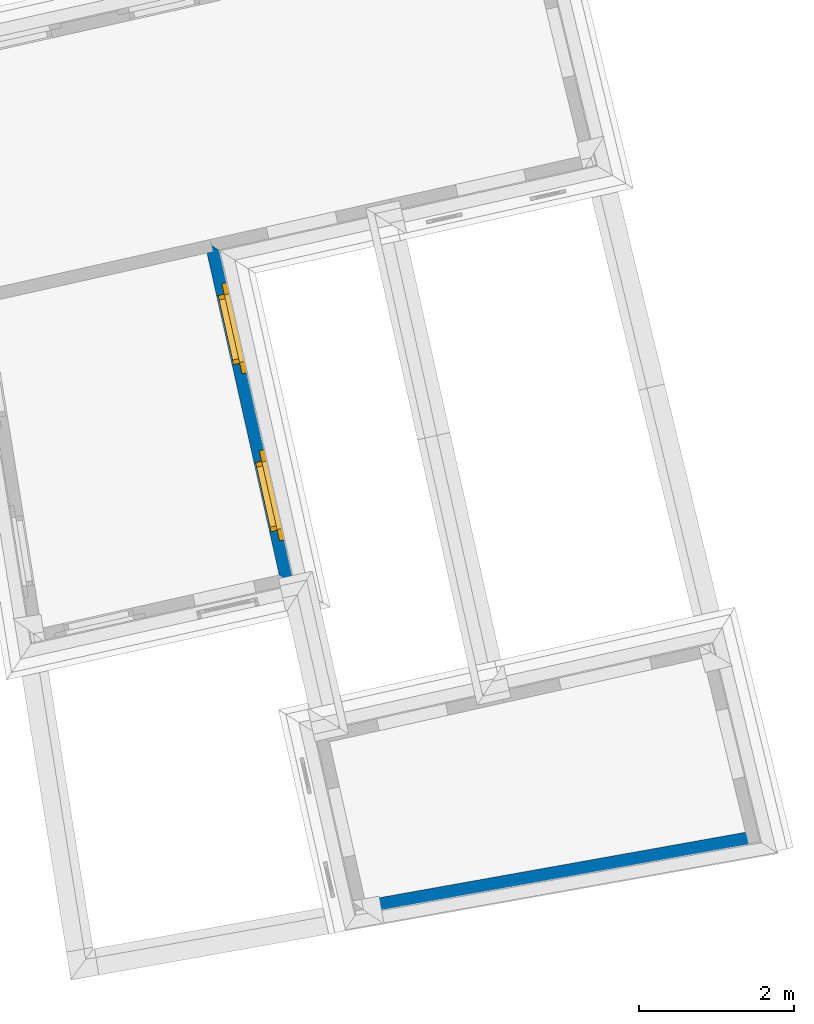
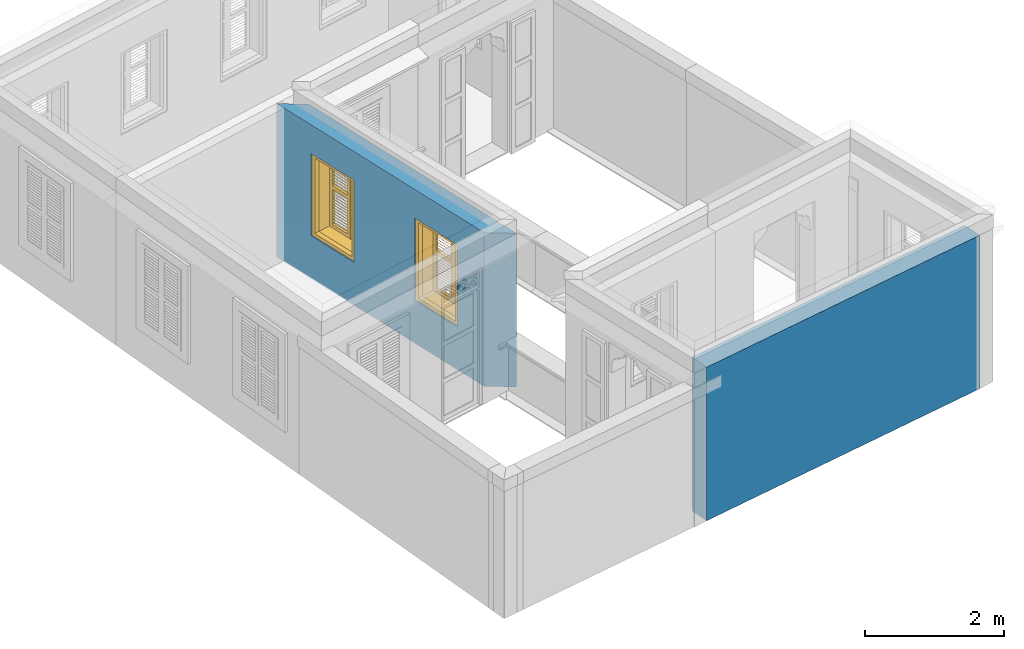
# One storey, part 6 of 15: 2 walls, 2 windows, 2 openings.
"""IFC4 building model written with IfcOpenShell, lengths in metres."""

from ifc_helpers import new_model, si_unit, frame, origin, origin_with_axes, place, context, subcontext, project, spatial, polyline, outline, extrude, faceted_brep, source, transform, mapped, material, layer, layer_set, layer_usage, type_object, type_shapes, element, fill, save


model = new_model("IFC4")

# Units and contexts
model_context = context("Model", 3, world=origin_with_axes())
body_context = subcontext(model_context, "Body", "Model", "MODEL_VIEW")
ifc_project = project(units=[si_unit("PLANEANGLEUNIT", "RADIAN"), si_unit("MASSUNIT", "GRAM", prefix="KILO"), si_unit("FORCEUNIT", "NEWTON", prefix="KILO"), si_unit("LENGTHUNIT", "METRE"), si_unit("AREAUNIT", "SQUARE_METRE"), si_unit("VOLUMEUNIT", "CUBIC_METRE")], contexts=[model_context, model_context])

# Site, building, storey
site_placement = place(None, origin_with_axes())
site = spatial("IfcSite", under=ifc_project, at=site_placement, Name="Site plot-10", CompositionType="ELEMENT")
building_placement = place(None, origin_with_axes())
building = spatial("IfcBuilding", under=site, at=building_placement, Name="Building plot-10", CompositionType="ELEMENT")
storey_placement = place(None, frame((0.0, 0.0, 2.7), z_axis=(0.0, 0.0, 1.0), x_axis=(1.0, 0.0, 0.0)))
storey = spatial("IfcBuildingStorey", under=building, at=storey_placement, Name="plot-10 1", CompositionType="ELEMENT", Elevation=2.7)

# Wall, openings, windows
ifc_material_1 = material(Name="Masonry")
ifc_layer_1 = layer(ifc_material_1, 0.33, ventilated=False)
ifc_layer_set_1 = layer_set([ifc_layer_1], Name="exterior_0.08_0.25")
ifc_layer_usage_1 = layer_usage(ifc_layer_set_1, "AXIS2", "POSITIVE", -0.25)
wall_type_1 = type_object("IfcWallType", Name="exterior_0.08_0.25", PredefinedType="SOLIDWALL", material=ifc_layer_set_1)
wall_1_placement = place(storey_placement, frame((-20.5808779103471, 12.8770561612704, 0.0), z_axis=(0.0, 0.0, 1.0), x_axis=(-0.218925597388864, 0.975741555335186, 0.0)))
wall_1 = element("IfcWall", 1, at=wall_1_placement, inside=storey, type_object=wall_type_1, material=ifc_layer_usage_1, Name="exterior", context=body_context, shape_type="SweptSolid", body=[
    extrude(outline(polyline([(0.0799999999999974, 0.0799999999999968), (-0.249999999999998, -0.249999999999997), (4.15809049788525, -0.249999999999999), (4.48809049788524, 0.0799999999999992), (0.0799999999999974, 0.0799999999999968)])), origin_with_axes(), (0.0, 0.0, 1.0), 2.7),
])
opening_1_placement = place(wall_1_placement, frame((0.64702262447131, 0.0, 0.75)))
opening_1 = element("IfcOpeningElement", 2, at=opening_1_placement, cuts=wall_1, Name="My Opening", ObjectType="Opening", context=body_context, shape_type="SweptSolid", body=[
    extrude(outline(polyline([(0.0, -0.27), (0.909999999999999, -0.270000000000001), (0.910000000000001, 1.1), (1.4432899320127e-15, 1.1), (0.0, -0.27)])), origin_with_axes(), (0.0, 0.0, 1.0), 1.445),
])
opening_2_placement = place(wall_1_placement, frame((2.85106787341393, 0.0, 0.75)))
opening_2 = element("IfcOpeningElement", 3, at=opening_2_placement, cuts=wall_1, Name="My Opening", ObjectType="Opening", context=body_context, shape_type="SweptSolid", body=[
    extrude(outline(polyline([(0.0, -0.270000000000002), (0.91, -0.270000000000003), (0.910000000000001, 1.1), (1.33226762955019e-15, 1.1), (0.0, -0.270000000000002)])), origin_with_axes(), (0.0, 0.0, 1.0), 1.445),
])
window_type = type_object("IfcWindowType", Name="shuttered_shorter", PartitioningType="DOUBLE_PANEL_HORIZONTAL", PredefinedType="NOTDEFINED")
shared_shape = source(origin(), body_context, "Body", "Brep", [
    faceted_brep([(0.393, 0.0, 0.622), (0.074, 0.0, 0.622), (0.074, 0.0, 0.632), (0.393, 0.0, 0.632), (0.074, -0.04, 0.592), (0.393, -0.04, 0.592), (0.393, -0.04, 0.582), (0.074, -0.04, 0.582), (0.517, 0.0, 0.682), (0.836, 0.0, 0.682), (0.836, 0.0, 0.672), (0.517, 0.0, 0.672), (0.517, -0.04, 0.642), (0.836, -0.04, 0.642), (0.836, -0.04, 0.632), (0.517, -0.04, 0.632), (0.517, 0.0, 0.632), (0.836, 0.0, 0.632), (0.836, 0.0, 0.622), (0.517, 0.0, 0.622), (0.517, -0.04, 0.592), (0.836, -0.04, 0.592), (0.836, -0.04, 0.582), (0.517, -0.04, 0.582), (0.517, 0.0, 0.232), (0.836, 0.0, 0.232), (0.836, 0.0, 0.222), (0.517, 0.0, 0.222), (0.517, -0.04, 0.192), (0.836, -0.04, 0.192), (0.836, -0.04, 0.182), (0.517, -0.04, 0.182), (0.517, 0.0, 0.532), (0.836, 0.0, 0.532), (0.836, 0.0, 0.522), (0.517, 0.0, 0.522), (0.517, -0.04, 0.492), (0.836, -0.04, 0.492), (0.836, -0.04, 0.482), (0.517, -0.04, 0.482), (0.517, 0.0, 0.482), (0.836, 0.0, 0.482), (0.836, 0.0, 0.472), (0.517, 0.0, 0.472), (0.517, -0.04, 0.442), (0.836, -0.04, 0.442), (0.836, -0.04, 0.432), (0.517, -0.04, 0.432), (0.517, 0.0, 0.582), (0.836, 0.0, 0.582), (0.836, 0.0, 0.572), (0.517, 0.0, 0.572), (0.517, -0.04, 0.542), (0.836, -0.04, 0.542), (0.836, -0.04, 0.532), (0.517, -0.04, 0.532), (0.517, 0.0, 0.182), (0.836, 0.0, 0.182), (0.836, 0.0, 0.172), (0.517, 0.0, 0.172), (0.517, -0.04, 0.142), (0.836, -0.04, 0.142), (0.836, -0.04, 0.132), (0.517, -0.04, 0.132), (0.517, 0.0, 0.382), (0.836, 0.0, 0.382), (0.836, 0.0, 0.372), (0.517, 0.0, 0.372), (0.517, -0.04, 0.342), (0.836, -0.04, 0.342), (0.836, -0.04, 0.332), (0.517, -0.04, 0.332), (0.517, 0.0, 0.432), (0.836, 0.0, 0.432), (0.836, 0.0, 0.422), (0.517, 0.0, 0.422), (0.517, -0.04, 0.392), (0.836, -0.04, 0.392), (0.836, -0.04, 0.382), (0.517, -0.04, 0.382), (0.517, 0.0, 0.132), (0.836, 0.0, 0.132), (0.836, 0.0, 0.122), (0.517, 0.0, 0.122), (0.517, -0.04, 0.092), (0.836, -0.04, 0.092), (0.836, -0.04, 0.082), (0.517, -0.04, 0.082), (0.517, 0.0, 0.282), (0.836, 0.0, 0.282), (0.836, 0.0, 0.272), (0.517, 0.0, 0.272), (0.517, -0.04, 0.242), (0.836, -0.04, 0.242), (0.836, -0.04, 0.232), (0.517, -0.04, 0.232), (0.517, 0.0, 0.332), (0.836, 0.0, 0.332), (0.836, 0.0, 0.322), (0.517, 0.0, 0.322), (0.517, -0.04, 0.292), (0.836, -0.04, 0.292), (0.836, -0.04, 0.282), (0.517, -0.04, 0.282), (0.517, 0.0, 1.362667), (0.836, 0.0, 1.362667), (0.836, 0.0, 1.352667), (0.517, 0.0, 1.352667), (0.517, -0.04, 1.322667), (0.836, -0.04, 1.322667), (0.836, -0.04, 1.312667), (0.517, -0.04, 1.312667), (0.517, 0.0, 1.312667), (0.836, 0.0, 1.312667), (0.836, 0.0, 1.302667), (0.517, 0.0, 1.302667), (0.517, -0.04, 1.272667), (0.836, -0.04, 1.272667), (0.836, -0.04, 1.262667), (0.517, -0.04, 1.262667), (0.517, 0.0, 0.912667), (0.836, 0.0, 0.912667), (0.836, 0.0, 0.902667), (0.517, 0.0, 0.902667), (0.517, -0.04, 0.872667), (0.836, -0.04, 0.872667), (0.836, -0.04, 0.862667), (0.517, -0.04, 0.862667), (0.517, 0.0, 1.212667), (0.836, 0.0, 1.212667), (0.836, 0.0, 1.202667), (0.517, 0.0, 1.202667), (0.517, -0.04, 1.172667), (0.836, -0.04, 1.172667), (0.836, -0.04, 1.162667), (0.517, -0.04, 1.162667), (0.517, 0.0, 1.162667), (0.836, 0.0, 1.162667), (0.836, 0.0, 1.152667), (0.517, 0.0, 1.152667), (0.517, -0.04, 1.122667), (0.836, -0.04, 1.122667), (0.836, -0.04, 1.112667), (0.517, -0.04, 1.112667), (0.517, 0.0, 1.262667), (0.836, 0.0, 1.262667), (0.836, 0.0, 1.252667), (0.517, 0.0, 1.252667), (0.517, -0.04, 1.222667), (0.836, -0.04, 1.222667), (0.836, -0.04, 1.212667), (0.517, -0.04, 1.212667), (0.517, 0.0, 0.862667), (0.836, 0.0, 0.862667), (0.836, 0.0, 0.852667), (0.517, 0.0, 0.852667), (0.517, -0.04, 0.822667), (0.836, -0.04, 0.822667), (0.836, -0.04, 0.812667), (0.517, -0.04, 0.812667), (0.517, 0.0, 1.062667), (0.836, 0.0, 1.062667), (0.836, 0.0, 1.052667), (0.517, 0.0, 1.052667), (0.517, -0.04, 1.022667), (0.836, -0.04, 1.022667), (0.836, -0.04, 1.012667), (0.517, -0.04, 1.012667), (0.517, 0.0, 1.112667), (0.836, 0.0, 1.112667), (0.836, 0.0, 1.102667), (0.517, 0.0, 1.102667), (0.517, -0.04, 1.072667), (0.836, -0.04, 1.072667), (0.836, -0.04, 1.062667), (0.517, -0.04, 1.062667), (0.517, 0.0, 0.812667), (0.836, 0.0, 0.812667), (0.836, 0.0, 0.802667), (0.517, 0.0, 0.802667), (0.517, -0.04, 0.772667), (0.836, -0.04, 0.772667), (0.836, -0.04, 0.762667), (0.517, -0.04, 0.762667), (0.517, 0.0, 0.962667), (0.836, 0.0, 0.962667), (0.836, 0.0, 0.952667), (0.517, 0.0, 0.952667), (0.517, -0.04, 0.922667), (0.836, -0.04, 0.922667), (0.836, -0.04, 0.912667), (0.517, -0.04, 0.912667), (0.517, 0.0, 1.012667), (0.836, 0.0, 1.012667), (0.836, 0.0, 1.002667), (0.517, 0.0, 1.002667), (0.517, -0.04, 0.972667), (0.836, -0.04, 0.972667), (0.836, -0.04, 0.962667), (0.517, -0.04, 0.962667), (0.074, 0.0, 0.682), (0.393, 0.0, 0.682), (0.393, 0.0, 0.672), (0.074, 0.0, 0.672), (0.074, -0.04, 0.642), (0.393, -0.04, 0.642), (0.393, -0.04, 0.632), (0.074, -0.04, 0.632), (0.074, 0.0, 0.232), (0.393, 0.0, 0.232), (0.393, 0.0, 0.222), (0.074, 0.0, 0.222), (0.074, -0.04, 0.192), (0.393, -0.04, 0.192), (0.393, -0.04, 0.182), (0.074, -0.04, 0.182), (0.074, 0.0, 0.532), (0.393, 0.0, 0.532), (0.393, 0.0, 0.522), (0.074, 0.0, 0.522), (0.074, -0.04, 0.492), (0.393, -0.04, 0.492), (0.393, -0.04, 0.482), (0.074, -0.04, 0.482), (0.074, 0.0, 0.482), (0.393, 0.0, 0.482), (0.393, 0.0, 0.472), (0.074, 0.0, 0.472), (0.074, -0.04, 0.442), (0.393, -0.04, 0.442), (0.393, -0.04, 0.432), (0.074, -0.04, 0.432), (0.074, 0.0, 0.582), (0.393, 0.0, 0.582), (0.393, 0.0, 0.572), (0.074, 0.0, 0.572), (0.074, -0.04, 0.542), (0.393, -0.04, 0.542), (0.393, -0.04, 0.532), (0.074, -0.04, 0.532), (0.074, 0.0, 0.182), (0.393, 0.0, 0.182), (0.393, 0.0, 0.172), (0.074, 0.0, 0.172), (0.074, -0.04, 0.142), (0.393, -0.04, 0.142), (0.393, -0.04, 0.132), (0.074, -0.04, 0.132), (0.074, 0.0, 0.382), (0.393, 0.0, 0.382), (0.393, 0.0, 0.372), (0.074, 0.0, 0.372), (0.074, -0.04, 0.342), (0.393, -0.04, 0.342), (0.393, -0.04, 0.332), (0.074, -0.04, 0.332), (0.074, 0.0, 0.432), (0.393, 0.0, 0.432), (0.393, 0.0, 0.422), (0.074, 0.0, 0.422), (0.074, -0.04, 0.392), (0.393, -0.04, 0.392), (0.393, -0.04, 0.382), (0.074, -0.04, 0.382), (0.074, 0.0, 0.132), (0.393, 0.0, 0.132), (0.393, 0.0, 0.122), (0.074, 0.0, 0.122), (0.074, -0.04, 0.092), (0.393, -0.04, 0.092), (0.393, -0.04, 0.082), (0.074, -0.04, 0.082), (0.074, 0.0, 0.282), (0.393, 0.0, 0.282), (0.393, 0.0, 0.272), (0.074, 0.0, 0.272), (0.074, -0.04, 0.242), (0.393, -0.04, 0.242), (0.393, -0.04, 0.232), (0.074, -0.04, 0.232), (0.074, 0.0, 0.332), (0.393, 0.0, 0.332), (0.393, 0.0, 0.322), (0.074, 0.0, 0.322), (0.074, -0.04, 0.292), (0.393, -0.04, 0.292), (0.393, -0.04, 0.282), (0.074, -0.04, 0.282), (0.074, 0.0, 1.362667), (0.393, 0.0, 1.362667), (0.393, 0.0, 1.352667), (0.074, 0.0, 1.352667), (0.074, -0.04, 1.322667), (0.393, -0.04, 1.322667), (0.393, -0.04, 1.312667), (0.074, -0.04, 1.312667), (0.074, 0.0, 1.312667), (0.393, 0.0, 1.312667), (0.393, 0.0, 1.302667), (0.074, 0.0, 1.302667), (0.074, -0.04, 1.272667), (0.393, -0.04, 1.272667), (0.393, -0.04, 1.262667), (0.074, -0.04, 1.262667), (0.074, 0.0, 0.912667), (0.393, 0.0, 0.912667), (0.393, 0.0, 0.902667), (0.074, 0.0, 0.902667), (0.074, -0.04, 0.872667), (0.393, -0.04, 0.872667), (0.393, -0.04, 0.862667), (0.074, -0.04, 0.862667), (0.074, 0.0, 1.212667), (0.393, 0.0, 1.212667), (0.393, 0.0, 1.202667), (0.074, 0.0, 1.202667), (0.074, -0.04, 1.172667), (0.393, -0.04, 1.172667), (0.393, -0.04, 1.162667), (0.074, -0.04, 1.162667), (0.074, 0.0, 1.162667), (0.393, 0.0, 1.162667), (0.393, 0.0, 1.152667), (0.074, 0.0, 1.152667), (0.074, -0.04, 1.122667), (0.393, -0.04, 1.122667), (0.393, -0.04, 1.112667), (0.074, -0.04, 1.112667), (0.074, 0.0, 1.262667), (0.393, 0.0, 1.262667), (0.393, 0.0, 1.252667), (0.074, 0.0, 1.252667), (0.074, -0.04, 1.222667), (0.393, -0.04, 1.222667), (0.393, -0.04, 1.212667), (0.074, -0.04, 1.212667), (0.074, 0.0, 0.862667), (0.393, 0.0, 0.862667), (0.393, 0.0, 0.852667), (0.074, 0.0, 0.852667), (0.074, -0.04, 0.822667), (0.393, -0.04, 0.822667), (0.393, -0.04, 0.812667), (0.074, -0.04, 0.812667), (0.074, 0.0, 1.062667), (0.393, 0.0, 1.062667), (0.393, 0.0, 1.052667), (0.074, 0.0, 1.052667), (0.074, -0.04, 1.022667), (0.393, -0.04, 1.022667), (0.393, -0.04, 1.012667), (0.074, -0.04, 1.012667), (0.074, 0.0, 1.112667), (0.393, 0.0, 1.112667), (0.393, 0.0, 1.102667), (0.074, 0.0, 1.102667), (0.074, -0.04, 1.072667), (0.393, -0.04, 1.072667), (0.393, -0.04, 1.062667), (0.074, -0.04, 1.062667), (0.074, 0.0, 0.812667), (0.393, 0.0, 0.812667), (0.393, 0.0, 0.802667), (0.074, 0.0, 0.802667), (0.074, -0.04, 0.772667), (0.393, -0.04, 0.772667), (0.393, -0.04, 0.762667), (0.074, -0.04, 0.762667), (0.074, 0.0, 0.962667), (0.393, 0.0, 0.962667), (0.393, 0.0, 0.952667), (0.074, 0.0, 0.952667), (0.074, -0.04, 0.922667), (0.393, -0.04, 0.922667), (0.393, -0.04, 0.912667), (0.074, -0.04, 0.912667), (0.074, 0.0, 1.012667), (0.393, 0.0, 1.012667), (0.393, 0.0, 1.002667), (0.074, 0.0, 1.002667), (0.074, -0.04, 0.972667), (0.393, -0.04, 0.972667), (0.393, -0.04, 0.962667), (0.074, -0.04, 0.962667), (0.517, -0.04, 0.072), (0.457, -0.04, 0.012), (0.896, -0.04, 0.012), (0.836, -0.04, 0.072), (0.457, -0.04, 0.692667), (0.517, -0.04, 0.692667), (0.457, 0.0, 0.012), (0.896, 0.0, 0.012), (0.836, -0.04, 0.692667), (0.896, -0.04, 0.692667), (0.836, 0.0, 0.072), (0.517, 0.0, 0.072), (0.457, 0.0, 0.692667), (0.517, 0.0, 0.692667), (0.517, -0.04, 0.752666), (0.457, -0.04, 0.752666), (0.896, 0.0, 0.692667), (0.836, 0.0, 0.692667), (0.836, -0.04, 0.752666), (0.896, -0.04, 0.752666), (0.457, 0.0, 0.752666), (0.457, -0.04, 1.433333), (0.517, -0.04, 1.373333), (0.896, 0.0, 0.752666), (0.836, -0.04, 1.373333), (0.896, -0.04, 1.433333), (0.457, 0.0, 1.433333), (0.517, 0.0, 0.752666), (0.836, 0.0, 0.752666), (0.517, 0.0, 1.373333), (0.896, 0.0, 1.433333), (0.836, 0.0, 1.373333), (0.074, -0.04, 0.072), (0.014, -0.04, 0.012), (0.453, -0.04, 0.012), (0.393, -0.04, 0.072), (0.014, -0.04, 0.692667), (0.074, -0.04, 0.692667), (0.014, 0.0, 0.012), (0.453, 0.0, 0.012), (0.393, -0.04, 0.692667), (0.453, -0.04, 0.692667), (0.393, 0.0, 0.072), (0.074, 0.0, 0.072), (0.014, 0.0, 0.692667), (0.074, 0.0, 0.692667), (0.074, -0.04, 0.752666), (0.014, -0.04, 0.752666), (0.453, 0.0, 0.692667), (0.393, 0.0, 0.692667), (0.393, -0.04, 0.752666), (0.453, -0.04, 0.752666), (0.014, 0.0, 0.752666), (0.014, -0.04, 1.433333), (0.074, -0.04, 1.373333), (0.453, 0.0, 0.752666), (0.393, -0.04, 1.373333), (0.453, -0.04, 1.433333), (0.014, 0.0, 1.433333), (0.074, 0.0, 0.752666), (0.393, 0.0, 0.752666), (0.074, 0.0, 1.373333), (0.453, 0.0, 1.433333), (0.393, 0.0, 1.373333), (0.0, 0.33, 1.445), (0.91, 0.33, 1.445), (0.85, 0.33, 1.385), (0.06, 0.33, 1.385), (0.91, 0.25, 1.445), (0.0, 0.25, 1.445), (0.91, 0.25, 1.445), (0.85, 0.33, 0.06), (0.91, 0.33, 0.0), (0.85, 0.25, 1.385), (0.06, 0.25, 1.385), (0.0, 0.33, 0.0), (0.06, 0.33, 0.06), (0.0, 0.25, 0.0), (0.91, 0.25, 0.0), (0.85, 0.25, 0.06), (0.06, 0.25, 0.06), (1.05, 0.25, 1.585), (-0.14, 0.25, 1.585), (-0.14, -0.03, 1.585), (1.05, -0.03, 1.585), (0.9, -0.03, 1.435), (0.01, -0.03, 1.435), (0.01, 0.25, 1.435), (0.9, 0.25, 1.435), (0.9, 0.25, 0.01), (0.9, -0.03, 0.01), (1.05, -0.03, -0.14), (1.05, 0.25, -0.14), (0.01, -0.03, 0.01), (0.01, 0.25, 0.01), (-0.14, -0.03, -0.14), (-0.14, 0.25, -0.14)], [[[0, 1, 2, 3]], [[4, 5, 3, 2]], [[5, 6, 0, 3]], [[1, 0, 6, 7]], [[2, 1, 7, 4]], [[5, 4, 7, 6]], [[8, 9, 10, 11]], [[12, 13, 9, 8]], [[13, 14, 10, 9]], [[14, 15, 11, 10]], [[15, 12, 8, 11]], [[13, 12, 15, 14]], [[16, 17, 18, 19]], [[20, 21, 17, 16]], [[21, 22, 18, 17]], [[22, 23, 19, 18]], [[23, 20, 16, 19]], [[21, 20, 23, 22]], [[24, 25, 26, 27]], [[28, 29, 25, 24]], [[29, 30, 26, 25]], [[30, 31, 27, 26]], [[31, 28, 24, 27]], [[29, 28, 31, 30]], [[32, 33, 34, 35]], [[36, 37, 33, 32]], [[37, 38, 34, 33]], [[38, 39, 35, 34]], [[39, 36, 32, 35]], [[37, 36, 39, 38]], [[40, 41, 42, 43]], [[44, 45, 41, 40]], [[45, 46, 42, 41]], [[46, 47, 43, 42]], [[47, 44, 40, 43]], [[45, 44, 47, 46]], [[48, 49, 50, 51]], [[52, 53, 49, 48]], [[53, 54, 50, 49]], [[54, 55, 51, 50]], [[55, 52, 48, 51]], [[53, 52, 55, 54]], [[56, 57, 58, 59]], [[60, 61, 57, 56]], [[61, 62, 58, 57]], [[62, 63, 59, 58]], [[63, 60, 56, 59]], [[61, 60, 63, 62]], [[64, 65, 66, 67]], [[68, 69, 65, 64]], [[69, 70, 66, 65]], [[70, 71, 67, 66]], [[71, 68, 64, 67]], [[69, 68, 71, 70]], [[72, 73, 74, 75]], [[76, 77, 73, 72]], [[77, 78, 74, 73]], [[78, 79, 75, 74]], [[79, 76, 72, 75]], [[77, 76, 79, 78]], [[80, 81, 82, 83]], [[84, 85, 81, 80]], [[85, 86, 82, 81]], [[86, 87, 83, 82]], [[87, 84, 80, 83]], [[85, 84, 87, 86]], [[88, 89, 90, 91]], [[92, 93, 89, 88]], [[93, 94, 90, 89]], [[94, 95, 91, 90]], [[95, 92, 88, 91]], [[93, 92, 95, 94]], [[96, 97, 98, 99]], [[100, 101, 97, 96]], [[101, 102, 98, 97]], [[102, 103, 99, 98]], [[103, 100, 96, 99]], [[101, 100, 103, 102]], [[104, 105, 106, 107]], [[108, 109, 105, 104]], [[109, 110, 106, 105]], [[110, 111, 107, 106]], [[111, 108, 104, 107]], [[109, 108, 111, 110]], [[112, 113, 114, 115]], [[116, 117, 113, 112]], [[117, 118, 114, 113]], [[118, 119, 115, 114]], [[119, 116, 112, 115]], [[117, 116, 119, 118]], [[120, 121, 122, 123]], [[124, 125, 121, 120]], [[125, 126, 122, 121]], [[126, 127, 123, 122]], [[127, 124, 120, 123]], [[125, 124, 127, 126]], [[128, 129, 130, 131]], [[132, 133, 129, 128]], [[133, 134, 130, 129]], [[134, 135, 131, 130]], [[135, 132, 128, 131]], [[133, 132, 135, 134]], [[136, 137, 138, 139]], [[140, 141, 137, 136]], [[141, 142, 138, 137]], [[142, 143, 139, 138]], [[139, 143, 140, 136]], [[141, 140, 143, 142]], [[144, 145, 146, 147]], [[148, 149, 145, 144]], [[149, 150, 146, 145]], [[150, 151, 147, 146]], [[151, 148, 144, 147]], [[149, 148, 151, 150]], [[152, 153, 154, 155]], [[156, 157, 153, 152]], [[157, 158, 154, 153]], [[158, 159, 155, 154]], [[159, 156, 152, 155]], [[157, 156, 159, 158]], [[160, 161, 162, 163]], [[164, 165, 161, 160]], [[165, 166, 162, 161]], [[166, 167, 163, 162]], [[167, 164, 160, 163]], [[165, 164, 167, 166]], [[168, 169, 170, 171]], [[172, 173, 169, 168]], [[173, 174, 170, 169]], [[174, 175, 171, 170]], [[175, 172, 168, 171]], [[173, 172, 175, 174]], [[176, 177, 178, 179]], [[180, 181, 177, 176]], [[181, 182, 178, 177]], [[182, 183, 179, 178]], [[183, 180, 176, 179]], [[181, 180, 183, 182]], [[184, 185, 186, 187]], [[188, 189, 185, 184]], [[189, 190, 186, 185]], [[190, 191, 187, 186]], [[191, 188, 184, 187]], [[189, 188, 191, 190]], [[192, 193, 194, 195]], [[196, 197, 193, 192]], [[197, 198, 194, 193]], [[198, 199, 195, 194]], [[199, 196, 192, 195]], [[197, 196, 199, 198]], [[200, 201, 202, 203]], [[204, 205, 201, 200]], [[205, 206, 202, 201]], [[206, 207, 203, 202]], [[207, 204, 200, 203]], [[205, 204, 207, 206]], [[208, 209, 210, 211]], [[212, 213, 209, 208]], [[213, 214, 210, 209]], [[214, 215, 211, 210]], [[215, 212, 208, 211]], [[213, 212, 215, 214]], [[216, 217, 218, 219]], [[220, 221, 217, 216]], [[221, 222, 218, 217]], [[222, 223, 219, 218]], [[223, 220, 216, 219]], [[221, 220, 223, 222]], [[224, 225, 226, 227]], [[228, 229, 225, 224]], [[229, 230, 226, 225]], [[230, 231, 227, 226]], [[231, 228, 224, 227]], [[229, 228, 231, 230]], [[232, 233, 234, 235]], [[236, 237, 233, 232]], [[237, 238, 234, 233]], [[238, 239, 235, 234]], [[239, 236, 232, 235]], [[237, 236, 239, 238]], [[240, 241, 242, 243]], [[244, 245, 241, 240]], [[245, 246, 242, 241]], [[246, 247, 243, 242]], [[247, 244, 240, 243]], [[245, 244, 247, 246]], [[248, 249, 250, 251]], [[252, 253, 249, 248]], [[253, 254, 250, 249]], [[254, 255, 251, 250]], [[255, 252, 248, 251]], [[253, 252, 255, 254]], [[256, 257, 258, 259]], [[260, 261, 257, 256]], [[261, 262, 258, 257]], [[262, 263, 259, 258]], [[263, 260, 256, 259]], [[261, 260, 263, 262]], [[264, 265, 266, 267]], [[268, 269, 265, 264]], [[269, 270, 266, 265]], [[270, 271, 267, 266]], [[271, 268, 264, 267]], [[269, 268, 271, 270]], [[272, 273, 274, 275]], [[276, 277, 273, 272]], [[277, 278, 274, 273]], [[278, 279, 275, 274]], [[279, 276, 272, 275]], [[277, 276, 279, 278]], [[280, 281, 282, 283]], [[284, 285, 281, 280]], [[285, 286, 282, 281]], [[286, 287, 283, 282]], [[287, 284, 280, 283]], [[285, 284, 287, 286]], [[288, 289, 290, 291]], [[292, 293, 289, 288]], [[293, 294, 290, 289]], [[294, 295, 291, 290]], [[295, 292, 288, 291]], [[293, 292, 295, 294]], [[296, 297, 298, 299]], [[300, 301, 297, 296]], [[301, 302, 298, 297]], [[302, 303, 299, 298]], [[303, 300, 296, 299]], [[301, 300, 303, 302]], [[304, 305, 306, 307]], [[308, 309, 305, 304]], [[309, 310, 306, 305]], [[310, 311, 307, 306]], [[311, 308, 304, 307]], [[309, 308, 311, 310]], [[312, 313, 314, 315]], [[316, 317, 313, 312]], [[317, 318, 314, 313]], [[318, 319, 315, 314]], [[319, 316, 312, 315]], [[317, 316, 319, 318]], [[320, 321, 322, 323]], [[324, 325, 321, 320]], [[325, 326, 322, 321]], [[326, 327, 323, 322]], [[327, 324, 320, 323]], [[325, 324, 327, 326]], [[328, 329, 330, 331]], [[332, 333, 329, 328]], [[333, 334, 330, 329]], [[334, 335, 331, 330]], [[335, 332, 328, 331]], [[333, 332, 335, 334]], [[336, 337, 338, 339]], [[340, 341, 337, 336]], [[341, 342, 338, 337]], [[342, 343, 339, 338]], [[343, 340, 336, 339]], [[341, 340, 343, 342]], [[344, 345, 346, 347]], [[348, 349, 345, 344]], [[349, 350, 346, 345]], [[350, 351, 347, 346]], [[351, 348, 344, 347]], [[349, 348, 351, 350]], [[352, 353, 354, 355]], [[356, 357, 353, 352]], [[357, 358, 354, 353]], [[358, 359, 355, 354]], [[359, 356, 352, 355]], [[357, 356, 359, 358]], [[360, 361, 362, 363]], [[364, 365, 361, 360]], [[365, 366, 362, 361]], [[366, 367, 363, 362]], [[367, 364, 360, 363]], [[365, 364, 367, 366]], [[368, 369, 370, 371]], [[372, 373, 369, 368]], [[373, 374, 370, 369]], [[374, 375, 371, 370]], [[375, 372, 368, 371]], [[373, 372, 375, 374]], [[376, 377, 378, 379]], [[380, 381, 377, 376]], [[381, 382, 378, 377]], [[382, 383, 379, 378]], [[383, 380, 376, 379]], [[381, 380, 383, 382]], [[384, 385, 386, 387]], [[388, 385, 384, 389]], [[390, 391, 386, 385]], [[392, 387, 386, 393]], [[384, 387, 394, 395]], [[390, 385, 388, 396]], [[389, 384, 395, 397]], [[389, 398, 399, 388]], [[390, 395, 394, 391]], [[400, 393, 386, 391]], [[387, 392, 401, 394]], [[402, 392, 393, 403]], [[396, 388, 399, 404]], [[390, 396, 397, 395]], [[392, 389, 397, 401]], [[398, 389, 392, 402]], [[405, 399, 398, 406]], [[394, 401, 400, 391]], [[407, 403, 393, 400]], [[408, 402, 403, 409]], [[404, 399, 405, 410]], [[411, 397, 396, 404]], [[397, 411, 412, 401]], [[398, 402, 412, 411]], [[406, 398, 411, 413]], [[405, 406, 408, 409]], [[401, 412, 407, 400]], [[414, 409, 403, 407]], [[402, 408, 415, 412]], [[405, 409, 414, 410]], [[404, 410, 413, 411]], [[408, 406, 413, 415]], [[412, 415, 414, 407]], [[413, 410, 414, 415]], [[416, 417, 418, 419]], [[420, 417, 416, 421]], [[422, 423, 418, 417]], [[424, 419, 418, 425]], [[416, 419, 426, 427]], [[422, 417, 420, 428]], [[421, 416, 427, 429]], [[421, 430, 431, 420]], [[422, 427, 426, 423]], [[432, 425, 418, 423]], [[419, 424, 433, 426]], [[434, 424, 425, 435]], [[428, 420, 431, 436]], [[422, 428, 429, 427]], [[424, 421, 429, 433]], [[430, 421, 424, 434]], [[437, 431, 430, 438]], [[426, 433, 432, 423]], [[439, 435, 425, 432]], [[440, 434, 435, 441]], [[436, 431, 437, 442]], [[443, 429, 428, 436]], [[429, 443, 444, 433]], [[430, 434, 444, 443]], [[438, 430, 443, 445]], [[437, 438, 440, 441]], [[433, 444, 439, 432]], [[446, 441, 435, 439]], [[434, 440, 447, 444]], [[437, 441, 446, 442]], [[436, 442, 445, 443]], [[440, 438, 445, 447]], [[444, 447, 446, 439]], [[445, 442, 446, 447]], [[448, 449, 450, 451]], [[452, 449, 448]], [[448, 453, 454]], [[448, 454, 452]], [[455, 450, 449, 456]], [[451, 450, 457, 458]], [[459, 448, 451, 460]], [[448, 459, 461, 453]], [[454, 453, 458, 457]], [[462, 452, 454]], [[454, 457, 463]], [[454, 463, 462]], [[456, 449, 452, 462]], [[450, 455, 463, 457]], [[456, 459, 460, 455]], [[460, 451, 458, 464]], [[459, 456, 462, 461]], [[464, 458, 453, 461]], [[461, 462, 463, 464]], [[455, 460, 464, 463]], [[465, 466, 467, 468]], [[469, 470, 471, 472]], [[473, 474, 469, 472]], [[465, 468, 475, 476]], [[470, 477, 478, 471]], [[474, 473, 478, 477]], [[474, 477, 479, 475]], [[470, 467, 479, 477]], [[470, 469, 468, 467]], [[474, 475, 468, 469]], [[471, 478, 480, 466]], [[473, 472, 465, 476]], [[473, 476, 480, 478]], [[466, 465, 472, 471]], [[480, 476, 475, 479]], [[480, 479, 467, 466]]]),
])
type_shapes(window_type, [shared_shape])
window_1_placement = place(storey_placement, frame((-20.4590775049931, 13.5674929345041, 0.75), z_axis=(0.0, 0.0, 1.0), x_axis=(-0.199222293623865, 0.887924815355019, 0.0)))
window_1 = element("IfcWindow", 4, at=window_1_placement, inside=storey, type_object=window_type, Name="bedroom sahn window", OverallHeight=1.445, OverallWidth=0.91, context=body_context, shape_type="MappedRepresentation", body=[
    mapped(shared_shape, transform((0.0, 0.0, 0.0), scale=1.0)),
])
fill(opening_1, window_1)
window_2_placement = place(storey_placement, frame((-20.9415994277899, 15.7180714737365, 0.75), z_axis=(0.0, 0.0, 1.0), x_axis=(-0.199222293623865, 0.887924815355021, 0.0)))
window_2 = element("IfcWindow", 5, at=window_2_placement, inside=storey, type_object=window_type, Name="bedroom sahn window", OverallHeight=1.445, OverallWidth=0.91, context=body_context, shape_type="MappedRepresentation", body=[
    mapped(shared_shape, transform((0.0, 0.0, 0.0), scale=1.0)),
])
fill(opening_2, window_2)

# Wall
ifc_material_2 = material(Name="Masonry")
ifc_layer_2 = layer(ifc_material_2, 0.33, ventilated=False)
ifc_layer_set_2 = layer_set([ifc_layer_2], Name="party_0.08_0.25")
ifc_layer_usage_2 = layer_usage(ifc_layer_set_2, "AXIS2", "POSITIVE", -0.25)
wall_type_2 = type_object("IfcWallType", Name="party_0.08_0.25", PredefinedType="SOLIDWALL", material=ifc_layer_set_2)
wall_2_placement = place(storey_placement, frame((-19.6342477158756, 8.65796789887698, 0.0), z_axis=(0.0, 0.0, 1.0), x_axis=(0.984393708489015, 0.175980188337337, 0.0)))
element("IfcWall", 6, at=wall_2_placement, inside=storey, type_object=wall_type_2, material=ifc_layer_usage_2, Name="party", context=body_context, shape_type="SweptSolid", body=[
    extrude(outline(polyline([(4.3122422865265e-16, 0.0800000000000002), (-7.61848032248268e-16, -0.25), (5.13844115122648, -0.25), (5.13844115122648, 0.0800000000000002), (4.3122422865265e-16, 0.0800000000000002)])), origin_with_axes(), (0.0, 0.0, 1.0), 2.7),
])

save(model, "model.ifc")
